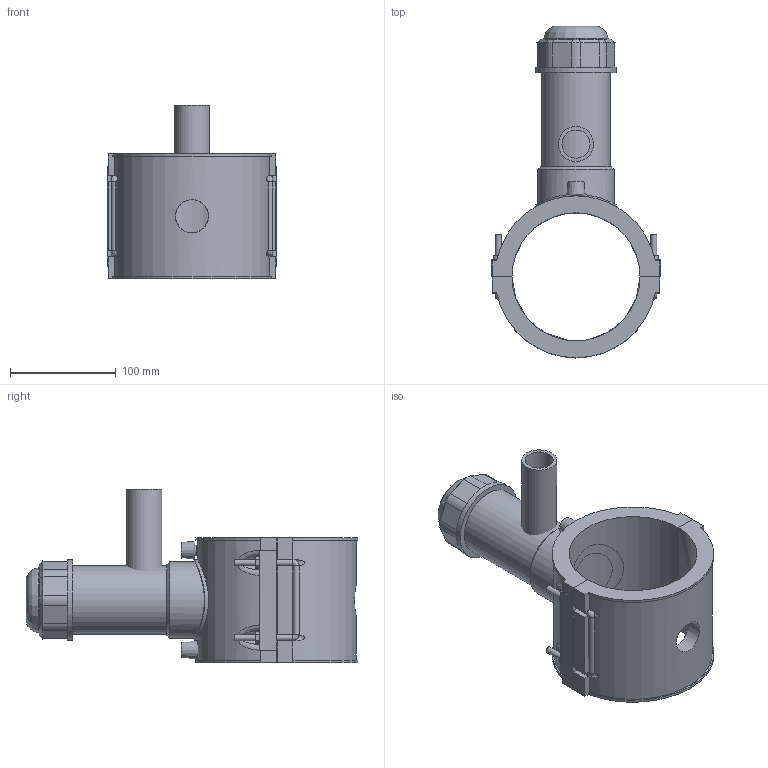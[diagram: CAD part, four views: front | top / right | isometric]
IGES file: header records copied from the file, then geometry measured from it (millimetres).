
Global section: file name: 5963DBP3040010.ipt; native system: Autodesk Inventor 2019; preprocessor: unknown; author: KIM; date: 20210830.101639; units: inch
Bounding box: 161 x 314.4 x 163.96 mm (x, y, z)
Volume: 1163948.5 mm3; surface area: 227421.7 mm2
Topology: 4 solids, 4 shells, 194 faces, 481 edges, 312 vertices
Faces by surface type: plane 118, cylinder 36, revolution 21, cone 15, bspline 4
Full cylindrical faces by diameter (mm): 4 x2, 6 x8, 33.3 x1, 61.135 x1, 64.956 x1, 72.598 x1, 76.419 x2
